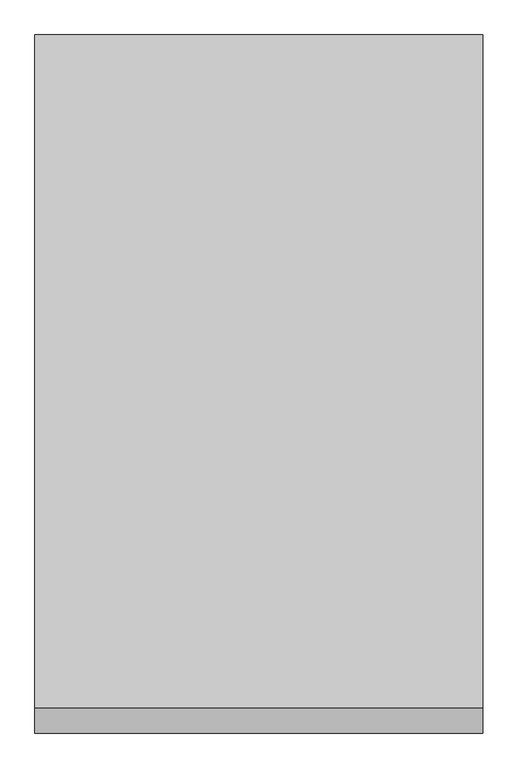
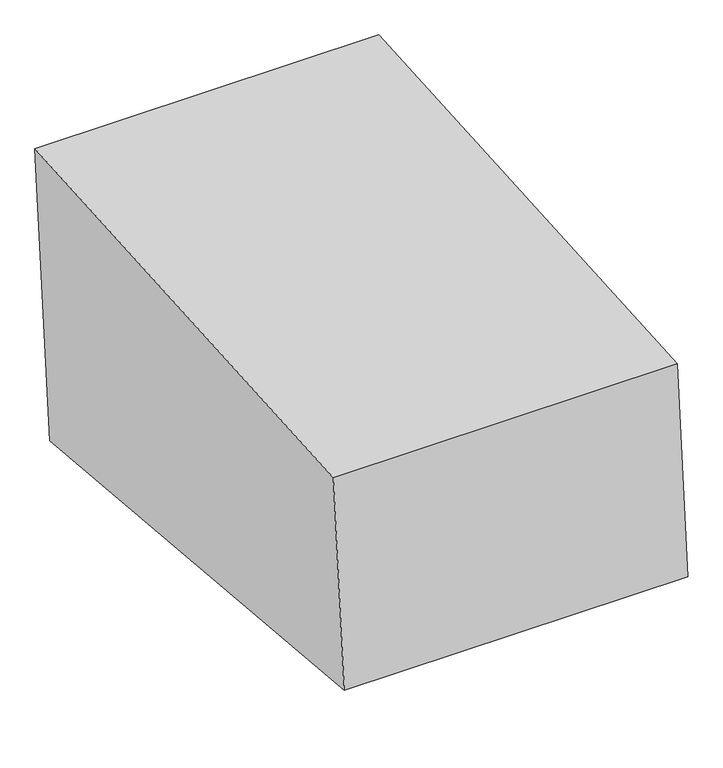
"""IFC4 building model written with IfcOpenShell, lengths in millimetres: proxy geometry, Excavation FamilySP : Excavation FamilySP."""

from ifc_helpers import new_model, si_unit, frame, origin, place, context, project, spatial, polyline, outline, extrude, source, transform, mapped, element, save


def generic_models_a66134e2(model_context):
    return source(origin(), model_context, "Body", "SweptSolid", [
        extrude(outline(polyline([(230.102777, 2597.2198811), (0.0, 0.0), (-4521.0140052, 400.5428593), (-4353.4765722, 2291.5741526), (230.102777, 2597.2198811)])), frame((-1524.0, 0.0, 0.0), z_axis=(1.0, 0.0, 0.0), x_axis=(0.0, 1.0, 0.0)), (0.0, 0.0, 1.0), 3048.0),
    ])


if __name__ == "__main__":
    model = new_model("IFC4")
    model_context = context("Model", 3, world=origin())
    ifc_project = project(units=[si_unit("LENGTHUNIT", "METRE", prefix="MILLI")], contexts=[model_context])
    site = spatial("IfcSite", under=ifc_project)
    building = spatial("IfcBuilding", under=site)
    placement = place(None, origin())
    generic_models_shape = generic_models_a66134e2(model_context)
    element("IfcBuildingElementProxy", 1, Name="Excavation FamilySP : Excavation FamilySP", ObjectType="Excavation FamilySP : Excavation FamilySP", at=placement, inside=building, context=model_context, shape_type="MappedRepresentation", body=[
        mapped(generic_models_shape, transform((0.0, 0.0, 0.0), x_axis=(1.0, 0.0, 0.0), y_axis=(0.0, 1.0, 0.0), z_axis=(0.0, 0.0, 1.0))),
    ])
    save(model, "model.ifc")
